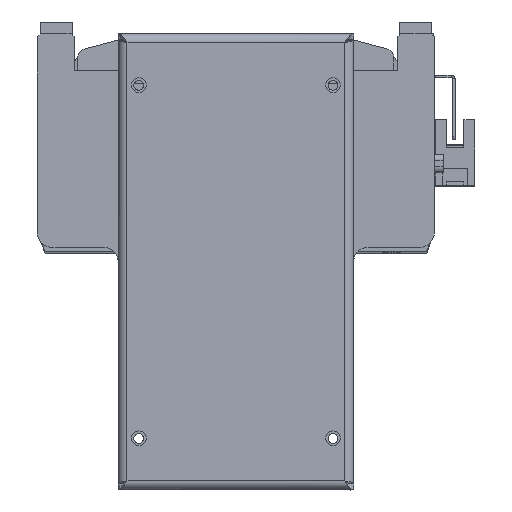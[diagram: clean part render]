
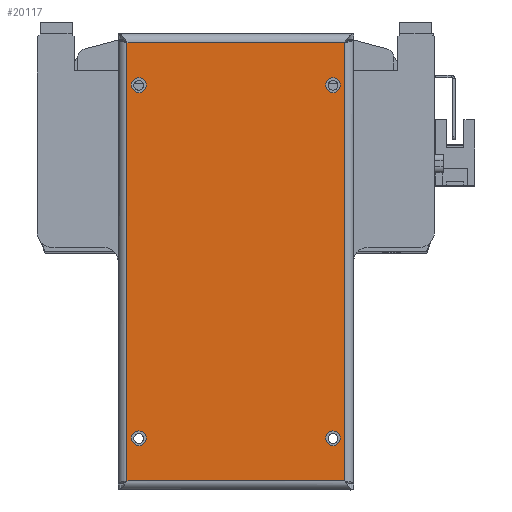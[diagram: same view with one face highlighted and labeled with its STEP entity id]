
A CAD part, top view. The second image highlights one B-rep face of the part: STEP entity #20117.
In plain terms, the highlighted planar face has unit normal (0, 0, 1) as drawn and (0, 0, -1) by its records, which use the part's own axes.
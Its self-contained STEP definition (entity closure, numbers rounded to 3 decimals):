
#2 = EDGE_CURVE ( 'NONE', #18838, #28520, #22957, .T. ) ;
#128 = VERTEX_POINT ( 'NONE', #18648 ) ;
#310 = DIRECTION ( 'NONE',  ( 0., -1., 0. ) ) ;
#939 = CARTESIAN_POINT ( 'NONE',  ( 2996.091, 163.884, -52. ) ) ;
#1242 = VERTEX_POINT ( 'NONE', #26363 ) ;
#1244 = AXIS2_PLACEMENT_3D ( 'NONE', #20963, #8293, #16458 ) ;
#1656 = VECTOR ( 'NONE', #17146, 1000. ) ;
#2348 = EDGE_LOOP ( 'NONE', ( #32439, #20225 ) ) ;
#2586 = ORIENTED_EDGE ( 'NONE', *, *, #32697, .F. ) ;
#2924 = DIRECTION ( 'NONE',  ( 0., -1., 0. ) ) ;
#3122 = LINE ( 'NONE', #22958, #29874 ) ;
#3132 = CARTESIAN_POINT ( 'NONE',  ( 2996.091, 283.884, -52. ) ) ;
#3583 = EDGE_LOOP ( 'NONE', ( #18250, #2586 ) ) ;
#4555 = AXIS2_PLACEMENT_3D ( 'NONE', #17004, #21842, #14496 ) ;
#4567 = DIRECTION ( 'NONE',  ( 0., -1., 0. ) ) ;
#4796 = CIRCLE ( 'NONE', #7439, 2.5 ) ;
#5122 = CARTESIAN_POINT ( 'NONE',  ( 2996.091, 281.384, -52. ) ) ;
#6076 = AXIS2_PLACEMENT_3D ( 'NONE', #12334, #25332, #22184 ) ;
#6396 = EDGE_CURVE ( 'NONE', #128, #17217, #8526, .T. ) ;
#6704 = DIRECTION ( 'NONE',  ( 0., -1., 0. ) ) ;
#6939 = CIRCLE ( 'NONE', #9076, 2.5 ) ;
#7205 = ORIENTED_EDGE ( 'NONE', *, *, #12346, .T. ) ;
#7439 = AXIS2_PLACEMENT_3D ( 'NONE', #939, #11105, #16283 ) ;
#7716 = FACE_BOUND ( 'NONE', #2348, .T. ) ;
#8293 = DIRECTION ( 'NONE',  ( 0., 0., -1. ) ) ;
#8383 = EDGE_CURVE ( 'NONE', #15246, #22638, #9110, .T. ) ;
#8402 = ORIENTED_EDGE ( 'NONE', *, *, #18536, .F. ) ;
#8526 = LINE ( 'NONE', #31718, #26117 ) ;
#8864 = DIRECTION ( 'NONE',  ( 0., -1., 0. ) ) ;
#9076 = AXIS2_PLACEMENT_3D ( 'NONE', #10580, #10256, #2924 ) ;
#9110 = LINE ( 'NONE', #26442, #14022 ) ;
#9239 = CIRCLE ( 'NONE', #1244, 2.5 ) ;
#9998 = VERTEX_POINT ( 'NONE', #5122 ) ;
#10016 = DIRECTION ( 'NONE',  ( 0., -1., 0. ) ) ;
#10145 = VERTEX_POINT ( 'NONE', #26585 ) ;
#10256 = DIRECTION ( 'NONE',  ( 0., 0., -1. ) ) ;
#10472 = ORIENTED_EDGE ( 'NONE', *, *, #6396, .T. ) ;
#10580 = CARTESIAN_POINT ( 'NONE',  ( 2930.091, 283.884, -52. ) ) ;
#11105 = DIRECTION ( 'NONE',  ( 0., 0., -1. ) ) ;
#11385 = CIRCLE ( 'NONE', #6076, 2.5 ) ;
#11446 = EDGE_CURVE ( 'NONE', #28520, #18838, #4796, .T. ) ;
#12227 = PLANE ( 'NONE',  #29108 ) ;
#12334 = CARTESIAN_POINT ( 'NONE',  ( 2930.091, 163.884, -52. ) ) ;
#12346 = EDGE_CURVE ( 'NONE', #17217, #15246, #12634, .T. ) ;
#12403 = CARTESIAN_POINT ( 'NONE',  ( 2963.091, 223.884, -52. ) ) ;
#12634 = LINE ( 'NONE', #19967, #1656 ) ;
#12918 = EDGE_CURVE ( 'NONE', #22278, #10145, #6939, .T. ) ;
#13545 = CARTESIAN_POINT ( 'NONE',  ( 2996.091, 161.384, -52. ) ) ;
#13892 = EDGE_LOOP ( 'NONE', ( #17546, #10472, #7205, #26058 ) ) ;
#14022 = VECTOR ( 'NONE', #16122, 1000. ) ;
#14496 = DIRECTION ( 'NONE',  ( 0., -1., 0. ) ) ;
#14925 = VERTEX_POINT ( 'NONE', #31135 ) ;
#15226 = FACE_BOUND ( 'NONE', #21567, .T. ) ;
#15246 = VERTEX_POINT ( 'NONE', #23552 ) ;
#15309 = CARTESIAN_POINT ( 'NONE',  ( 2996.091, 286.384, -52. ) ) ;
#15759 = AXIS2_PLACEMENT_3D ( 'NONE', #3132, #18633, #310 ) ;
#15984 = EDGE_LOOP ( 'NONE', ( #8402, #32333 ) ) ;
#16122 = DIRECTION ( 'NONE',  ( 0., 1., 0. ) ) ;
#16283 = DIRECTION ( 'NONE',  ( 0., -1., 0. ) ) ;
#16458 = DIRECTION ( 'NONE',  ( 0., -1., 0. ) ) ;
#17004 = CARTESIAN_POINT ( 'NONE',  ( 2930.091, 163.884, -52. ) ) ;
#17146 = DIRECTION ( 'NONE',  ( -1., 0., 0. ) ) ;
#17217 = VERTEX_POINT ( 'NONE', #19171 ) ;
#17475 = VERTEX_POINT ( 'NONE', #15309 ) ;
#17546 = ORIENTED_EDGE ( 'NONE', *, *, #29295, .T. ) ;
#18250 = ORIENTED_EDGE ( 'NONE', *, *, #18350, .F. ) ;
#18350 = EDGE_CURVE ( 'NONE', #14925, #1242, #24783, .T. ) ;
#18442 = CARTESIAN_POINT ( 'NONE',  ( 2996.091, 166.384, -52. ) ) ;
#18536 = EDGE_CURVE ( 'NONE', #9998, #17475, #28534, .T. ) ;
#18633 = DIRECTION ( 'NONE',  ( 0., 0., -1. ) ) ;
#18648 = CARTESIAN_POINT ( 'NONE',  ( 3000.091, 298.384, -52. ) ) ;
#18838 = VERTEX_POINT ( 'NONE', #18442 ) ;
#19171 = CARTESIAN_POINT ( 'NONE',  ( 3000.091, 149.384, -52. ) ) ;
#19580 = CARTESIAN_POINT ( 'NONE',  ( 2930.091, 281.384, -52. ) ) ;
#19894 = FACE_BOUND ( 'NONE', #3583, .T. ) ;
#19967 = CARTESIAN_POINT ( 'NONE',  ( 3000.737, 149.384, -52. ) ) ;
#20117 = ADVANCED_FACE ( 'NONE', ( #7716, #19894, #20223, #15226, #27888 ), #12227, .T. ) ;
#20163 = DIRECTION ( 'NONE',  ( 0., 0., -1. ) ) ;
#20223 = FACE_BOUND ( 'NONE', #15984, .T. ) ;
#20225 = ORIENTED_EDGE ( 'NONE', *, *, #28273, .F. ) ;
#20963 = CARTESIAN_POINT ( 'NONE',  ( 2930.091, 283.884, -52. ) ) ;
#20970 = CIRCLE ( 'NONE', #29506, 2.5 ) ;
#21567 = EDGE_LOOP ( 'NONE', ( #26948, #26163 ) ) ;
#21842 = DIRECTION ( 'NONE',  ( 0., 0., -1. ) ) ;
#21911 = AXIS2_PLACEMENT_3D ( 'NONE', #32848, #20163, #6704 ) ;
#22184 = DIRECTION ( 'NONE',  ( 0., -1., 0. ) ) ;
#22278 = VERTEX_POINT ( 'NONE', #19580 ) ;
#22638 = VERTEX_POINT ( 'NONE', #31254 ) ;
#22957 = CIRCLE ( 'NONE', #21911, 2.5 ) ;
#22958 = CARTESIAN_POINT ( 'NONE',  ( 2925.444, 298.384, -52. ) ) ;
#23552 = CARTESIAN_POINT ( 'NONE',  ( 2926.091, 149.384, -52. ) ) ;
#24783 = CIRCLE ( 'NONE', #4555, 2.5 ) ;
#25332 = DIRECTION ( 'NONE',  ( 0., 0., -1. ) ) ;
#26058 = ORIENTED_EDGE ( 'NONE', *, *, #8383, .T. ) ;
#26117 = VECTOR ( 'NONE', #8864, 1000. ) ;
#26163 = ORIENTED_EDGE ( 'NONE', *, *, #2, .F. ) ;
#26363 = CARTESIAN_POINT ( 'NONE',  ( 2930.091, 166.384, -52. ) ) ;
#26442 = CARTESIAN_POINT ( 'NONE',  ( 2926.091, 148.738, -52. ) ) ;
#26585 = CARTESIAN_POINT ( 'NONE',  ( 2930.091, 286.384, -52. ) ) ;
#26948 = ORIENTED_EDGE ( 'NONE', *, *, #11446, .F. ) ;
#27388 = DIRECTION ( 'NONE',  ( 0., 0., -1. ) ) ;
#27888 = FACE_OUTER_BOUND ( 'NONE', #13892, .T. ) ;
#28273 = EDGE_CURVE ( 'NONE', #10145, #22278, #9239, .T. ) ;
#28520 = VERTEX_POINT ( 'NONE', #13545 ) ;
#28534 = CIRCLE ( 'NONE', #15759, 2.5 ) ;
#28764 = EDGE_CURVE ( 'NONE', #17475, #9998, #20970, .T. ) ;
#29108 = AXIS2_PLACEMENT_3D ( 'NONE', #12403, #27388, #4567 ) ;
#29295 = EDGE_CURVE ( 'NONE', #22638, #128, #3122, .T. ) ;
#29506 = AXIS2_PLACEMENT_3D ( 'NONE', #32528, #32372, #10016 ) ;
#29874 = VECTOR ( 'NONE', #31163, 1000. ) ;
#31135 = CARTESIAN_POINT ( 'NONE',  ( 2930.091, 161.384, -52. ) ) ;
#31163 = DIRECTION ( 'NONE',  ( 1., 0., 0. ) ) ;
#31254 = CARTESIAN_POINT ( 'NONE',  ( 2926.091, 298.384, -52. ) ) ;
#31718 = CARTESIAN_POINT ( 'NONE',  ( 3000.091, 299.031, -52. ) ) ;
#32333 = ORIENTED_EDGE ( 'NONE', *, *, #28764, .F. ) ;
#32372 = DIRECTION ( 'NONE',  ( 0., 0., -1. ) ) ;
#32439 = ORIENTED_EDGE ( 'NONE', *, *, #12918, .F. ) ;
#32528 = CARTESIAN_POINT ( 'NONE',  ( 2996.091, 283.884, -52. ) ) ;
#32697 = EDGE_CURVE ( 'NONE', #1242, #14925, #11385, .T. ) ;
#32848 = CARTESIAN_POINT ( 'NONE',  ( 2996.091, 163.884, -52. ) ) ;
